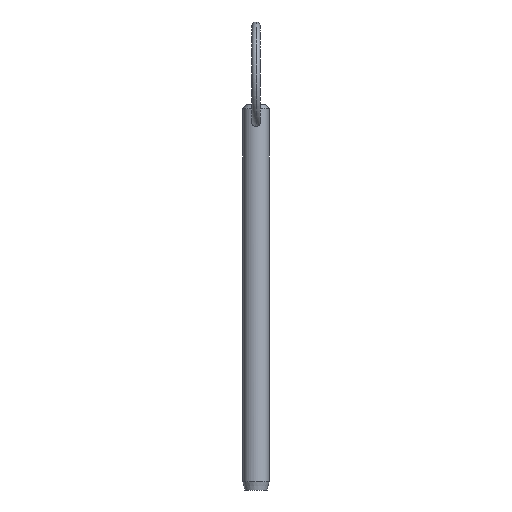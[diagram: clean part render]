
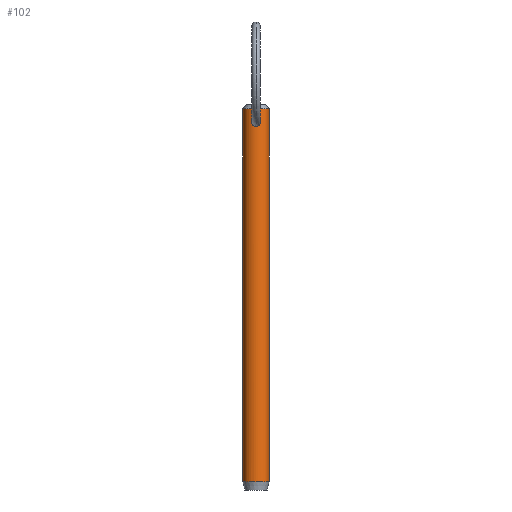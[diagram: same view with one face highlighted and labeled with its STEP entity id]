
A CAD part, front view. The second image highlights one B-rep face of the part: STEP entity #102.
In plain terms, the highlighted cylindrical face has radius 3.175 mm (diameter 6.35 mm), a partial arc.
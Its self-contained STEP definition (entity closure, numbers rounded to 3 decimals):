
#11 = CARTESIAN_POINT ( 'NONE',  ( 1.004, -3.012, 80.093 ) ) ;
#24 = CARTESIAN_POINT ( 'NONE',  ( 0.134, -3.175, 79.203 ) ) ;
#27 = DIRECTION ( 'NONE',  ( 0., 0., -1. ) ) ;
#31 = CARTESIAN_POINT ( 'NONE',  ( -0.067, -3.175, 81.282 ) ) ;
#35 = CARTESIAN_POINT ( 'NONE',  ( -0.615, -3.116, 81.053 ) ) ;
#46 = CARTESIAN_POINT ( 'NONE',  ( 0.628, -3.114, 79.404 ) ) ;
#50 = VERTEX_POINT ( 'NONE', #385 ) ;
#58 = CARTESIAN_POINT ( 'NONE',  ( 0., 0., -5.92 ) ) ;
#77 = VERTEX_POINT ( 'NONE', #284 ) ;
#80 = CARTESIAN_POINT ( 'NONE',  ( 0.982, -3.02, 79.958 ) ) ;
#90 = DIRECTION ( 'NONE',  ( -1., 0., 0. ) ) ;
#91 = DIRECTION ( 'NONE',  ( 0., 0., -1. ) ) ;
#93 = DIRECTION ( 'NONE',  ( 0., 0., -1. ) ) ;
#98 = CARTESIAN_POINT ( 'NONE',  ( -0.133, -3.173, 81.274 ) ) ;
#102 = ADVANCED_FACE ( 'NONE', ( #413, #105 ), #430, .T. ) ;
#104 = CARTESIAN_POINT ( 'NONE',  ( -0.991, -3.016, 80.496 ) ) ;
#105 = FACE_BOUND ( 'NONE', #235, .T. ) ;
#116 = LINE ( 'NONE', #171, #203 ) ;
#117 = CARTESIAN_POINT ( 'NONE',  ( 0.815, -3.07, 79.595 ) ) ;
#118 = CARTESIAN_POINT ( 'NONE',  ( 0.515, -3.135, 79.33 ) ) ;
#124 = AXIS2_PLACEMENT_3D ( 'NONE', #58, #208, #90 ) ;
#126 = CARTESIAN_POINT ( 'NONE',  ( 0., -3.175, 79.203 ) ) ;
#130 = VECTOR ( 'NONE', #27, 1000. ) ;
#142 = CARTESIAN_POINT ( 'NONE',  ( -0.516, -3.135, 79.331 ) ) ;
#146 = CARTESIAN_POINT ( 'NONE',  ( -0.134, -3.175, 79.203 ) ) ;
#148 = CARTESIAN_POINT ( 'NONE',  ( -0.815, -3.07, 79.595 ) ) ;
#151 = ORIENTED_EDGE ( 'NONE', *, *, #351, .F. ) ;
#157 = CARTESIAN_POINT ( 'NONE',  ( 0.888, -3.049, 79.709 ) ) ;
#161 = ORIENTED_EDGE ( 'NONE', *, *, #439, .T. ) ;
#162 = CARTESIAN_POINT ( 'NONE',  ( 0.269, -3.166, 81.25 ) ) ;
#171 = CARTESIAN_POINT ( 'NONE',  ( 3.175, 0., 78.8 ) ) ;
#175 = CARTESIAN_POINT ( 'NONE',  ( 3.175, 0., -5.92 ) ) ;
#178 = ORIENTED_EDGE ( 'NONE', *, *, #378, .T. ) ;
#180 = EDGE_CURVE ( 'NONE', #186, #50, #447, .T. ) ;
#182 = EDGE_CURVE ( 'NONE', #77, #373, #342, .T. ) ;
#186 = VERTEX_POINT ( 'NONE', #248 ) ;
#193 = B_SPLINE_CURVE_WITH_KNOTS ( 'NONE', 3,
 ( #327, #457, #162, #409, #268, #204, #303, #11, #80, #157, #117, #46, #118, #271, #24, #126 ),
 .UNSPECIFIED., .F., .F.,
 ( 4, 2, 2, 2, 2, 2, 2, 4 ),
 ( 0.003, 0.003, 0.004, 0.004, 0.005, 0.005, 0.006, 0.006 ),
 .UNSPECIFIED. ) ;
#195 = VERTEX_POINT ( 'NONE', #468 ) ;
#203 = VECTOR ( 'NONE', #91, 1000. ) ;
#204 = CARTESIAN_POINT ( 'NONE',  ( 0.884, -3.055, 80.757 ) ) ;
#208 = DIRECTION ( 'NONE',  ( 0., 0., 1. ) ) ;
#213 = DIRECTION ( 'NONE',  ( 1., 0., 0. ) ) ;
#222 = CARTESIAN_POINT ( 'NONE',  ( -1.004, -3.012, 80.095 ) ) ;
#235 = EDGE_LOOP ( 'NONE', ( #464, #161 ) ) ;
#248 = CARTESIAN_POINT ( 'NONE',  ( 3.175, 0., 83.38 ) ) ;
#250 = CARTESIAN_POINT ( 'NONE',  ( -0.328, -3.159, 81.221 ) ) ;
#256 = CARTESIAN_POINT ( 'NONE',  ( -0.882, -3.055, 80.76 ) ) ;
#262 = B_SPLINE_CURVE_WITH_KNOTS ( 'NONE', 3,
 ( #322, #146, #436, #142, #293, #148, #483, #321, #222, #104, #256, #35, #363, #250, #393, #98, #31, #399 ),
 .UNSPECIFIED., .F., .F.,
 ( 4, 2, 2, 2, 2, 2, 2, 2, 4 ),
 ( 0.006, 0.006, 0.007, 0.007, 0.008, 0.008, 0.009, 0.009, 0.009 ),
 .UNSPECIFIED. ) ;
#266 = AXIS2_PLACEMENT_3D ( 'NONE', #389, #93, #417 ) ;
#268 = CARTESIAN_POINT ( 'NONE',  ( 0.617, -3.116, 81.051 ) ) ;
#271 = CARTESIAN_POINT ( 'NONE',  ( 0.268, -3.166, 79.229 ) ) ;
#278 = EDGE_CURVE ( 'NONE', #195, #451, #193, .T. ) ;
#284 = CARTESIAN_POINT ( 'NONE',  ( -3.175, 0., -5.92 ) ) ;
#293 = CARTESIAN_POINT ( 'NONE',  ( -0.629, -3.114, 79.405 ) ) ;
#303 = CARTESIAN_POINT ( 'NONE',  ( 0.992, -3.016, 80.494 ) ) ;
#310 = ORIENTED_EDGE ( 'NONE', *, *, #180, .T. ) ;
#311 = EDGE_LOOP ( 'NONE', ( #151, #310, #178, #444 ) ) ;
#321 = CARTESIAN_POINT ( 'NONE',  ( -0.983, -3.02, 79.959 ) ) ;
#322 = CARTESIAN_POINT ( 'NONE',  ( 0., -3.175, 79.203 ) ) ;
#327 = CARTESIAN_POINT ( 'NONE',  ( 0., -3.175, 81.282 ) ) ;
#342 = CIRCLE ( 'NONE', #124, 3.175 ) ;
#351 = EDGE_CURVE ( 'NONE', #186, #373, #116, .T. ) ;
#353 = CARTESIAN_POINT ( 'NONE',  ( 0., 0., 83.38 ) ) ;
#363 = CARTESIAN_POINT ( 'NONE',  ( -0.508, -3.136, 81.135 ) ) ;
#373 = VERTEX_POINT ( 'NONE', #175 ) ;
#378 = EDGE_CURVE ( 'NONE', #50, #77, #474, .T. ) ;
#385 = CARTESIAN_POINT ( 'NONE',  ( -3.175, 0., 83.38 ) ) ;
#388 = DIRECTION ( 'NONE',  ( 0., 0., -1. ) ) ;
#389 = CARTESIAN_POINT ( 'NONE',  ( 0., 0., 78.8 ) ) ;
#393 = CARTESIAN_POINT ( 'NONE',  ( -0.264, -3.165, 81.244 ) ) ;
#399 = CARTESIAN_POINT ( 'NONE',  ( 0., -3.175, 81.282 ) ) ;
#409 = CARTESIAN_POINT ( 'NONE',  ( 0.51, -3.136, 81.134 ) ) ;
#413 = FACE_OUTER_BOUND ( 'NONE', #311, .T. ) ;
#417 = DIRECTION ( 'NONE',  ( -1., 0., 0. ) ) ;
#420 = AXIS2_PLACEMENT_3D ( 'NONE', #353, #388, #213 ) ;
#430 = CYLINDRICAL_SURFACE ( 'NONE', #266, 3.175 ) ;
#436 = CARTESIAN_POINT ( 'NONE',  ( -0.269, -3.166, 79.229 ) ) ;
#439 = EDGE_CURVE ( 'NONE', #451, #195, #262, .T. ) ;
#441 = CARTESIAN_POINT ( 'NONE',  ( 0., -3.175, 79.203 ) ) ;
#444 = ORIENTED_EDGE ( 'NONE', *, *, #182, .T. ) ;
#447 = CIRCLE ( 'NONE', #420, 3.175 ) ;
#451 = VERTEX_POINT ( 'NONE', #441 ) ;
#457 = CARTESIAN_POINT ( 'NONE',  ( 0.134, -3.175, 81.282 ) ) ;
#464 = ORIENTED_EDGE ( 'NONE', *, *, #278, .T. ) ;
#468 = CARTESIAN_POINT ( 'NONE',  ( 0., -3.175, 81.282 ) ) ;
#474 = LINE ( 'NONE', #477, #130 ) ;
#477 = CARTESIAN_POINT ( 'NONE',  ( -3.175, 0., 78.8 ) ) ;
#483 = CARTESIAN_POINT ( 'NONE',  ( -0.888, -3.049, 79.709 ) ) ;
